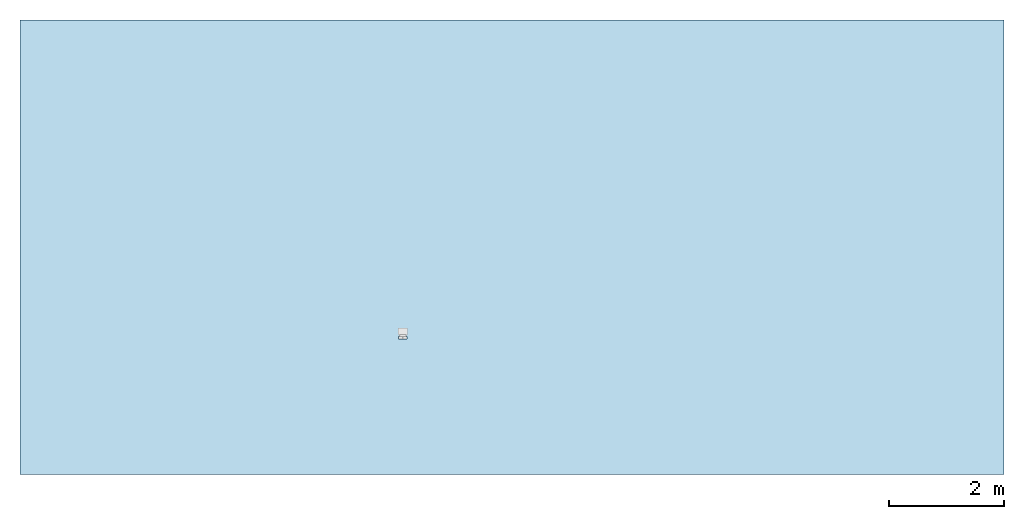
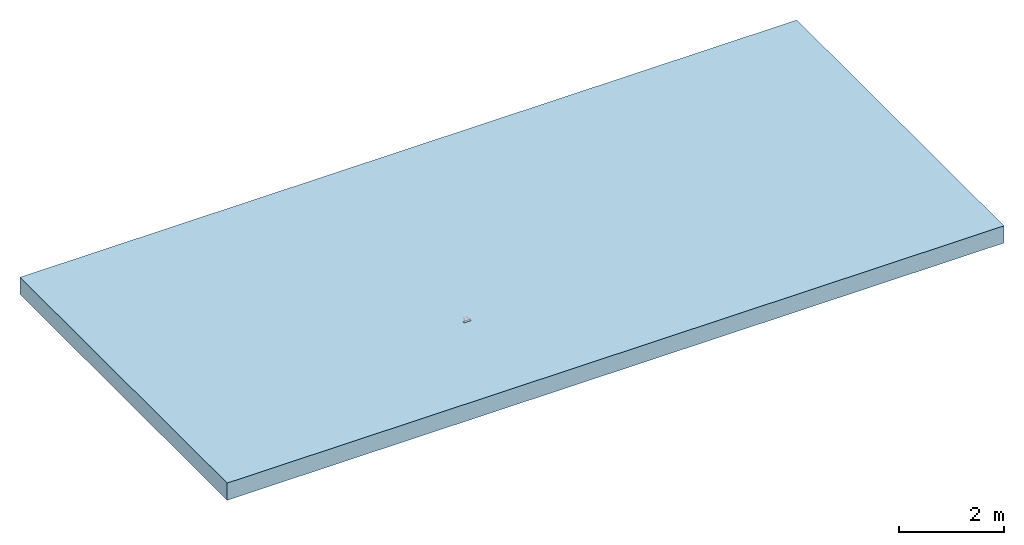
# One storey, part 1 of 2: 1 slab, 1 opening.
"""IFC2X3 building model written with IfcOpenShell, lengths in millimetres."""

from ifc_helpers import new_model, entity, si_unit, converted_unit, direction, frame, frame_2d, origin, place, context, subcontext, project, spatial, rectangle, extrude, faceted_brep, material, layer, layer_set, layer_usage, element, save


model = new_model("IFC2X3")

# Units and contexts
model_context = context("Model", 3, precision=1e-06, world=origin(), true_north=direction((2.0, 6.12303176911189e-17, 1.0)))
context_of_model = context(None, 3, precision=1e-06, world=origin(), true_north=direction((2.0, 6.12303176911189e-17, 1.0)))
body_context = subcontext(model_context, "Body", "Model", "MODEL_VIEW")
ifc_project = project(units=[si_unit("LENGTHUNIT", "METRE", prefix="MILLI"), si_unit("AREAUNIT", "SQUARE_METRE", prefix="MILLI"), si_unit("VOLUMEUNIT", "CUBIC_METRE", prefix="MILLI"), converted_unit("PLANEANGLEUNIT", "DEGREE", entity("IfcRatioMeasure", 0.0174532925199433), si_unit("PLANEANGLEUNIT", "RADIAN"), dimensions=[0, 0, 0, 0, 0, 0, 0]), si_unit("TIMEUNIT", "SECOND")], contexts=[model_context, context_of_model])

# Site, building, storey
site_placement = place(None, origin())
site = spatial("IfcSite", under=ifc_project, at=site_placement, Name="Default", CompositionType="ELEMENT")
building_placement = place(site_placement, origin())
building = spatial("IfcBuilding", under=site, at=building_placement, CompositionType="ELEMENT")
storey_placement = place(building_placement, origin())
storey = spatial("IfcBuildingStorey", under=building, at=storey_placement, Name="Level 1", CompositionType="ELEMENT", Elevation=0.0)

# Slab, opening
ifc_material = material(Name="Plant")
ifc_layer = layer(ifc_material, 400.0)
ifc_layer_set = layer_set([ifc_layer], Name="Floor:Generic Floor - 400mm")
ifc_layer_usage = layer_usage(ifc_layer_set, "AXIS3", "POSITIVE", 0.0)
slab_placement = place(storey_placement, origin())
slab = element("IfcSlab", 1, at=slab_placement, inside=storey, material=ifc_layer_usage, Name="Floor:Generic Floor - 400mm", ObjectType="Floor:Generic Floor - 400mm", PredefinedType="FLOOR", context=body_context, shape_type="SweptSolid", body=[
    extrude(rectangle(XDim=7900.0, YDim=17100.0, at=frame_2d((0.0, 0.0), x_axis=(0.0, -1.0))), frame((-8097.86261836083, 1059.07636553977, 0.0), z_axis=(0.0, 0.0, -1.0), x_axis=(-1.0, 0.0, 0.0)), (0.0, 0.0, 1.0), 400.0),
])
opening_placement = place(slab_placement, frame((-10075.069987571, -538.640450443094, -380.015697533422)))
element("IfcOpeningElement", 2, at=opening_placement, cuts=slab, ObjectType="Opening", context=body_context, shape_type="Brep", body=[
    faceted_brep([(5.19999999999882, 50.0, 380.015697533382), (155.199999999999, 50.0, 218.096175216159), (155.199999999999, 50.0, 380.015697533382), (5.19999999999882, 50.0, 218.096175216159), (160.5, 50.0, 21.0156975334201), (155.199999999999, 50.0, 21.0156975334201), (160.5, 50.0, 218.09617521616), (0.0, 50.0, 21.0156975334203), (0.0, 50.0, 218.09617521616), (5.19999999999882, 50.0, 21.0156975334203), (5.19999999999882, 50.0, 0.0), (155.199999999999, 50.0, 0.0), (155.199999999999, 0.0, 380.015697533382), (5.19999999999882, 0.0, 380.015697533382), (160.5, 80.0, 180.990697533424), (160.5, 197.0, 180.990697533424), (160.5, 197.0, 21.0156975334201), (155.199999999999, 0.0, 0.0), (5.19999999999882, 0.0, 0.0), (0.0, 80.0, 180.990697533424), (0.0, 197.0, 21.0156975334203), (0.0, 197.0, 180.990697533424)], [[[0, 1, 2]], [[1, 0, 3]], [[4, 5, 1]], [[1, 6, 4]], [[3, 7, 8]], [[7, 3, 9]], [[10, 11, 5]], [[5, 9, 10]], [[2, 12, 13]], [[13, 0, 2]], [[14, 15, 16]], [[4, 6, 14]], [[16, 4, 14]], [[17, 18, 13]], [[13, 12, 17]], [[10, 18, 17]], [[17, 11, 10]], [[1, 17, 12]], [[5, 17, 1]], [[2, 1, 12]], [[17, 5, 11]], [[3, 13, 18]], [[0, 13, 3]], [[9, 3, 18]], [[18, 10, 9]], [[19, 8, 7]], [[20, 21, 19]], [[7, 20, 19]], [[14, 19, 21]], [[21, 15, 14]], [[16, 21, 20]], [[21, 16, 15]], [[9, 20, 7]], [[5, 20, 9]], [[4, 16, 5]], [[20, 5, 16]], [[3, 8, 19]], [[1, 3, 19]], [[14, 6, 1]], [[19, 14, 1]]]),
])

save(model, "model.ifc")
